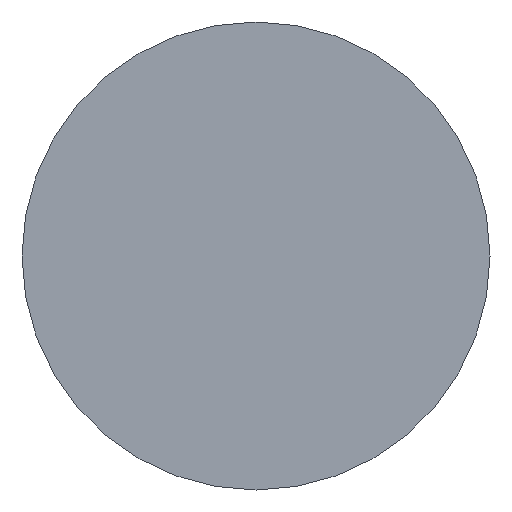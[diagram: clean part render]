
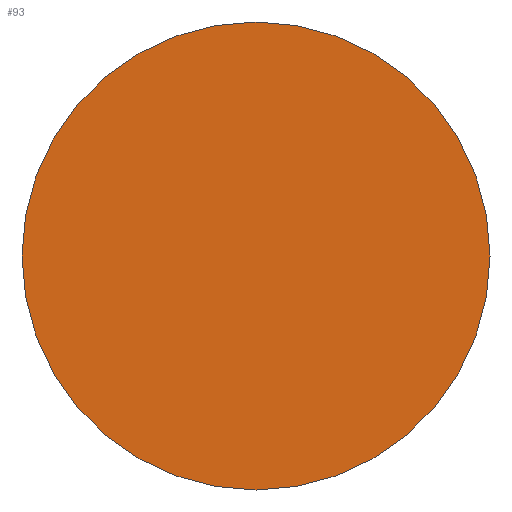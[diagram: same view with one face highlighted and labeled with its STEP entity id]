
A CAD part, front view. The second image highlights one B-rep face of the part: STEP entity #93.
In plain terms, the highlighted planar face has unit normal (0, -1, 0).
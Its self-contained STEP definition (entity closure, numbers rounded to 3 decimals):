
#21 = EDGE_CURVE('',#22,#24,#26,.T.);
#22 = VERTEX_POINT('',#23);
#23 = CARTESIAN_POINT('',(-1.125,0.75,-1.25));
#24 = VERTEX_POINT('',#25);
#25 = CARTESIAN_POINT('',(-1.125,0.75,-1.));
#26 = CIRCLE('',#27,0.125);
#27 = AXIS2_PLACEMENT_3D('',#28,#29,#30);
#28 = CARTESIAN_POINT('',(-1.125,0.75,-1.125));
#29 = DIRECTION('',(0.,-1.,0.));
#30 = DIRECTION('',(0.,0.,1.));
#64 = EDGE_CURVE('',#24,#22,#65,.T.);
#65 = CIRCLE('',#66,0.125);
#66 = AXIS2_PLACEMENT_3D('',#67,#68,#69);
#67 = CARTESIAN_POINT('',(-1.125,0.75,-1.125));
#68 = DIRECTION('',(0.,-1.,0.));
#69 = DIRECTION('',(0.,0.,1.));
#93 = ADVANCED_FACE('',(#94),#98,.F.);
#94 = FACE_BOUND('',#95,.T.);
#95 = EDGE_LOOP('',(#96,#97));
#96 = ORIENTED_EDGE('',*,*,#64,.T.);
#97 = ORIENTED_EDGE('',*,*,#21,.T.);
#98 = PLANE('',#99);
#99 = AXIS2_PLACEMENT_3D('',#100,#101,#102);
#100 = CARTESIAN_POINT('',(-1.125,0.75,-1.125));
#101 = DIRECTION('',(0.,1.,0.));
#102 = DIRECTION('',(0.,-0.,1.));
